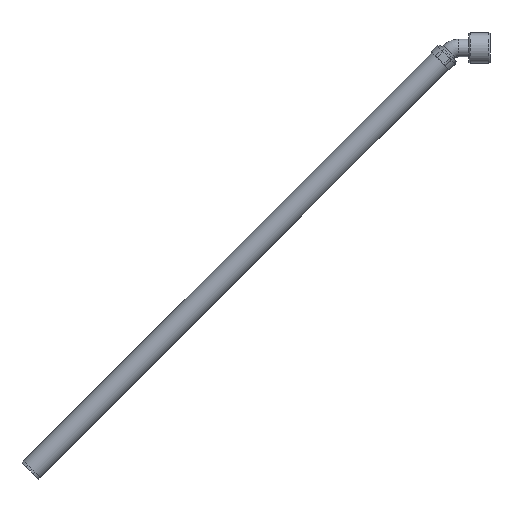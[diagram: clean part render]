
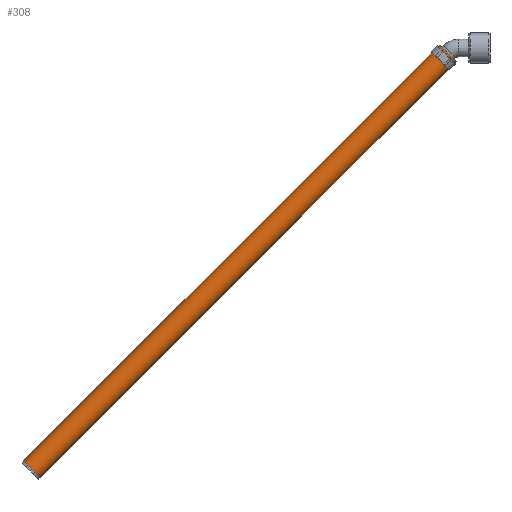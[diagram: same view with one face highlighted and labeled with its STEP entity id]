
A CAD part, top view. The second image highlights one B-rep face of the part: STEP entity #308.
In plain terms, the highlighted cylindrical face has radius 10 mm (diameter 20 mm), a full revolution.
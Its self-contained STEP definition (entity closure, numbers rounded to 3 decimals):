
#308 = ADVANCED_FACE( '', ( #427, #428 ), #429, .T. );
#427 = FACE_OUTER_BOUND( '', #595, .T. );
#428 = FACE_OUTER_BOUND( '', #596, .T. );
#429 = CYLINDRICAL_SURFACE( '', #597, 10. );
#595 = EDGE_LOOP( '', ( #818 ) );
#596 = EDGE_LOOP( '', ( #819 ) );
#597 = AXIS2_PLACEMENT_3D( '', #820, #821, #822 );
#818 = ORIENTED_EDGE( '', *, *, #1047, .T. );
#819 = ORIENTED_EDGE( '', *, *, #1049, .F. );
#820 = CARTESIAN_POINT( '', ( 500., 0., 0. ) );
#821 = DIRECTION( '', ( -1., 0., 0. ) );
#822 = DIRECTION( '', ( 0., 0., -1. ) );
#1047 = EDGE_CURVE( '', #1154, #1154, #1155, .T. );
#1049 = EDGE_CURVE( '', #1158, #1158, #1159, .T. );
#1154 = VERTEX_POINT( '', #1304 );
#1155 = CIRCLE( '', #1305, 10. );
#1158 = VERTEX_POINT( '', #1308 );
#1159 = CIRCLE( '', #1309, 10. );
#1304 = CARTESIAN_POINT( '', ( 0., 0., -10. ) );
#1305 = AXIS2_PLACEMENT_3D( '', #1504, #1505, #1506 );
#1308 = CARTESIAN_POINT( '', ( 500., 0., -10. ) );
#1309 = AXIS2_PLACEMENT_3D( '', #1510, #1511, #1512 );
#1504 = CARTESIAN_POINT( '', ( 0., 0., 0. ) );
#1505 = DIRECTION( '', ( 1., 0., 0. ) );
#1506 = DIRECTION( '', ( 0., 0., -1. ) );
#1510 = CARTESIAN_POINT( '', ( 500., 0., 0. ) );
#1511 = DIRECTION( '', ( 1., 0., 0. ) );
#1512 = DIRECTION( '', ( 0., 0., -1. ) );
